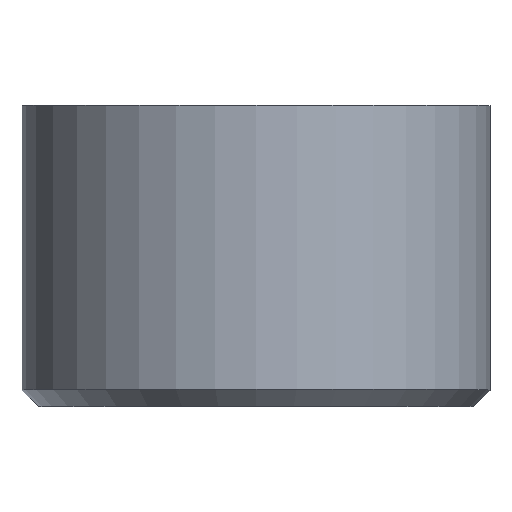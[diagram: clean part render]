
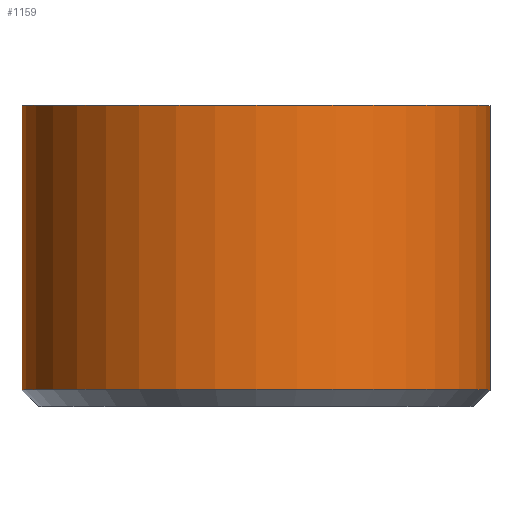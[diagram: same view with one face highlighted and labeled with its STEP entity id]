
A CAD part, top view. The second image highlights one B-rep face of the part: STEP entity #1159.
In plain terms, the highlighted cylindrical face has radius 7 mm (diameter 14 mm), a partial arc.
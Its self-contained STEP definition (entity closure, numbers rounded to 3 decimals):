
#992=AXIS2_PLACEMENT_3D('Circle Axis2P3D',#990,#991,$) ;
#1139=AXIS2_PLACEMENT_3D('Cylinder Axis2P3D',#1136,#1137,#1138) ;
#1150=AXIS2_PLACEMENT_3D('Circle Axis2P3D',#1148,#1149,$) ;
#987=CARTESIAN_POINT('Vertex',(-7.,9.,0.)) ;
#990=CARTESIAN_POINT('Axis2P3D Location',(0.,9.,0.)) ;
#994=CARTESIAN_POINT('Vertex',(7.,9.,0.)) ;
#1117=CARTESIAN_POINT('Line Origine',(7.,4.75,0.)) ;
#1121=CARTESIAN_POINT('Vertex',(7.,0.5,0.)) ;
#1136=CARTESIAN_POINT('Axis2P3D Location',(0.,4.5,0.)) ;
#1141=CARTESIAN_POINT('Line Origine',(-7.,4.5,0.)) ;
#1145=CARTESIAN_POINT('Vertex',(-7.,0.5,0.)) ;
#1148=CARTESIAN_POINT('Axis2P3D Location',(0.,0.5,0.)) ;
#991=DIRECTION('Axis2P3D Direction',(0.,1.,0.)) ;
#1118=DIRECTION('Vector Direction',(0.,1.,0.)) ;
#1137=DIRECTION('Axis2P3D Direction',(0.,1.,0.)) ;
#1138=DIRECTION('Axis2P3D XDirection',(-1.,-0.,0.)) ;
#1142=DIRECTION('Vector Direction',(0.,1.,0.)) ;
#1149=DIRECTION('Axis2P3D Direction',(0.,1.,0.)) ;
#1119=VECTOR('Line Direction',#1118,1.) ;
#1143=VECTOR('Line Direction',#1142,1.) ;
#1154=ORIENTED_EDGE('',*,*,#1123,.T.) ;
#1155=ORIENTED_EDGE('',*,*,#996,.F.) ;
#1156=ORIENTED_EDGE('',*,*,#1147,.F.) ;
#1157=ORIENTED_EDGE('',*,*,#1152,.T.) ;
#1159=ADVANCED_FACE('PartBody',(#1158),#1140,.T.) ;
#993=CIRCLE('generated circle',#992,7.) ;
#1151=CIRCLE('generated circle',#1150,7.) ;
#1140=CYLINDRICAL_SURFACE('generated cylinder',#1139,7.) ;
#996=EDGE_CURVE('',#988,#995,#993,.T.) ;
#1123=EDGE_CURVE('',#1122,#995,#1120,.T.) ;
#1147=EDGE_CURVE('',#1146,#988,#1144,.T.) ;
#1152=EDGE_CURVE('',#1146,#1122,#1151,.T.) ;
#1153=EDGE_LOOP('',(#1154,#1155,#1156,#1157)) ;
#1158=FACE_OUTER_BOUND('',#1153,.T.) ;
#1120=LINE('Line',#1117,#1119) ;
#1144=LINE('Line',#1141,#1143) ;
#988=VERTEX_POINT('',#987) ;
#995=VERTEX_POINT('',#994) ;
#1122=VERTEX_POINT('',#1121) ;
#1146=VERTEX_POINT('',#1145) ;
